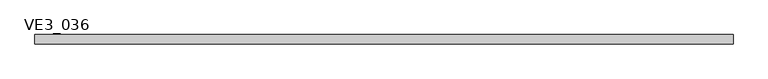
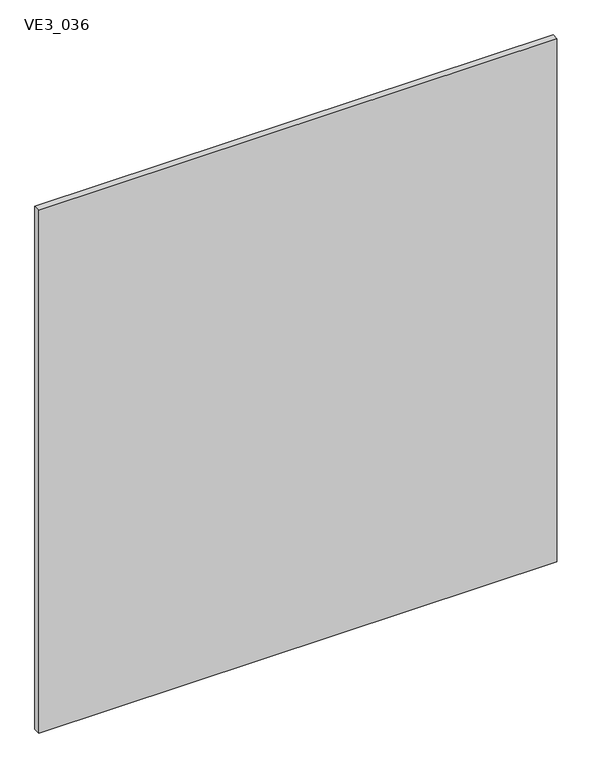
"""IFC4 building model written with IfcOpenShell, lengths in millimetres: plate geometry, TRP_CP_ARC_PF_RE_SE : VE3_036."""

import ifcopenshell
import ifcopenshell.guid

model = None  # the IFC model being written
_history = None  # IfcOwnerHistory: only IFC2X3 demands one
_inside = {}  # id of a spatial element -> (the spatial element, [elements in it])
_under = {}  # id of a project, library or spatial element -> (it, [spatial elements below it])
_declared = {}  # id of a project -> (the project, [libraries it declares])
_typed = {}  # id of a type object -> (the type object, [elements of that type])
_made_of = {}  # id of a material, layer set ... -> (it, [elements and type objects made of it])


def new_model(schema):
    """Start an empty IFC model of exactly this schema.

    Asked for "IFC4X3", IfcOpenShell would pick the latest addendum, in which some entities
    have other attributes; the version numbers below select the first issue.
    IFC2X3 requires an IfcOwnerHistory on every rooted entity: one is made here for all.
    """
    global model, _history
    if schema == "IFC4X3":
        model = ifcopenshell.file(schema_version=(4, 3, 0, 0))
    else:
        model = ifcopenshell.file(schema=schema)
    _inside.clear()
    _under.clear()
    _declared.clear()
    _typed.clear()
    _made_of.clear()
    _history = None
    if model.schema == "IFC2X3":
        org = make("IfcOrganization", Name="unknown")
        user = make(
            "IfcPersonAndOrganization",
            ThePerson=make("IfcPerson", FamilyName="unknown"),
            TheOrganization=org,
        )
        app = make(
            "IfcApplication",
            ApplicationDeveloper=org,
            Version="unknown",
            ApplicationFullName="unknown",
            ApplicationIdentifier="unknown",
        )
        _history = make(
            "IfcOwnerHistory",
            OwningUser=user,
            OwningApplication=app,
            ChangeAction="ADDED",
            CreationDate=0,
        )
    return model


def make(cls, **values):
    """One entity of the class cls with the attributes given. An attribute that is None is left unset."""
    return model.create_entity(
        cls, **{name: value for name, value in values.items() if value is not None}
    )


def rooted(cls, **values):
    """An entity with a GlobalId (a new one), such as an element, a storey or a relation."""
    return make(cls, GlobalId=ifcopenshell.guid.new(), OwnerHistory=_history, **values)


def si_unit(unit_type, name, prefix=None):
    """IfcSIUnit, for example si_unit("LENGTHUNIT", "METRE", prefix="MILLI")."""
    return make("IfcSIUnit", UnitType=unit_type, Prefix=prefix, Name=name)


def assignment(units):
    """IfcUnitAssignment: the units of a project."""
    return None if units is None else make("IfcUnitAssignment", Units=units)


def point(xyz):
    """IfcCartesianPoint."""
    return None if xyz is None else make("IfcCartesianPoint", Coordinates=xyz)


def direction(xyz):
    """IfcDirection."""
    return None if xyz is None else make("IfcDirection", DirectionRatios=xyz)


def frame(location, z_axis=None, x_axis=None):
    """IfcAxis2Placement3D, a coordinate frame: its origin and axes. An axis left out is left unset."""
    return make(
        "IfcAxis2Placement3D",
        Location=point(location),
        Axis=direction(z_axis),
        RefDirection=direction(x_axis),
    )


def origin():
    """The frame at (0, 0, 0) with its axes left unset."""
    return frame((0.0, 0.0, 0.0))


def place(relative_to, where):
    """IfcLocalPlacement: puts the frame where relative to a parent placement (None: the world)."""
    return make(
        "IfcLocalPlacement", PlacementRelTo=relative_to, RelativePlacement=where
    )


def context(
    kind, dimensions, precision=None, world=None, true_north=None, identifier=None
):
    """IfcGeometricRepresentationContext, for example the 3D "Model" context."""
    return make(
        "IfcGeometricRepresentationContext",
        ContextIdentifier=identifier,
        ContextType=kind,
        CoordinateSpaceDimension=dimensions,
        Precision=precision,
        WorldCoordinateSystem=world,
        TrueNorth=true_north,
    )


def project(units=None, contexts=None):
    """IfcProject with its units and contexts."""
    return rooted(
        "IfcProject",
        Name="project",
        RepresentationContexts=contexts,
        UnitsInContext=assignment(units),
    )


def spatial(cls, under=None, at=None, **own):
    """A site, building, storey or space (cls), placed at a placement, below another one or the project."""
    s = rooted(cls, ObjectPlacement=at, **own)
    if under is not None:
        _under.setdefault(under.id(), (under, []))[1].append(s)
    return s


def polyline(points):
    """IfcPolyline through the points."""
    return make("IfcPolyline", Points=[point(p) for p in points])


def outline(outer, holes=None, kind="AREA"):
    """IfcArbitraryClosedProfileDef: a profile drawn as a closed curve; with holes, ...WithVoids."""
    if holes is None:
        return make("IfcArbitraryClosedProfileDef", ProfileType=kind, OuterCurve=outer)
    return make(
        "IfcArbitraryProfileDefWithVoids",
        ProfileType=kind,
        OuterCurve=outer,
        InnerCurves=holes,
    )


def extrude(swept, where, along, depth):
    """IfcExtrudedAreaSolid: the profile swept, set in the frame where, extruded along a direction by depth."""
    return make(
        "IfcExtrudedAreaSolid",
        SweptArea=swept,
        Position=where,
        ExtrudedDirection=direction(along),
        Depth=depth,
    )


def shape(context_of_items, identifier, shape_type, items):
    """IfcShapeRepresentation: the items that make up one representation, for example the "Body"."""
    return make(
        "IfcShapeRepresentation",
        ContextOfItems=context_of_items,
        RepresentationIdentifier=identifier,
        RepresentationType=shape_type,
        Items=items,
    )


def source(mapping_origin, context_of_items, identifier, shape_type, items):
    """IfcRepresentationMap: a shape defined once, which mapped items show again and again."""
    return make(
        "IfcRepresentationMap",
        MappingOrigin=mapping_origin,
        MappedRepresentation=shape(context_of_items, identifier, shape_type, items),
    )


def transform(
    local_origin,
    x_axis=None,
    y_axis=None,
    z_axis=None,
    scale=None,
    scale2=None,
    scale3=None,
    uniform=True,
):
    """IfcCartesianTransformationOperator3D, or its non-uniform kind. x_axis, y_axis, z_axis: its Axis1, 2, 3."""
    if uniform:
        return make(
            "IfcCartesianTransformationOperator3D",
            Axis1=direction(x_axis),
            Axis2=direction(y_axis),
            LocalOrigin=point(local_origin),
            Scale=scale,
            Axis3=direction(z_axis),
        )
    return make(
        "IfcCartesianTransformationOperator3DnonUniform",
        Axis1=direction(x_axis),
        Axis2=direction(y_axis),
        LocalOrigin=point(local_origin),
        Scale=scale,
        Axis3=direction(z_axis),
        Scale2=scale2,
        Scale3=scale3,
    )


def mapped(mapping_source, mapping_target):
    """IfcMappedItem: shows the shape of a source again, moved by a transform."""
    return make(
        "IfcMappedItem", MappingSource=mapping_source, MappingTarget=mapping_target
    )


def made_of(thing, what):
    """Note that an element or type object is made of a material, layer set ...; save() writes the relation."""
    if what is not None:
        _made_of.setdefault(what.id(), (what, []))[1].append(thing)
    return thing


def element(
    cls,
    number,
    at=None,
    inside=None,
    cuts=None,
    type_object=None,
    material=None,
    context=None,
    identifier="Body",
    shape_type=None,
    held_by="IfcProductDefinitionShape",
    body=None,
    shapes=None,
    **own,
):
    """One element of the class cls, such as IfcWall. Its Tag is "e" and its number.

    at: its placement. inside: the storey or other place that contains it. cuts: it is an
    opening in that element (IfcRelVoidsElement). A single representation is given by context,
    identifier, shape_type and body (its items); several are given by shapes. held_by: the class
    of the entity that holds the representations. save() writes the other relations.
    """
    e = rooted(cls, Tag="e%d" % number, ObjectPlacement=at, **own)
    if body is not None:
        shapes = [shape(context, identifier, shape_type, body)]
    if shapes is not None:
        e.Representation = make(held_by, Representations=shapes)
    if inside is not None:
        _inside.setdefault(inside.id(), (inside, []))[1].append(e)
    if cuts is not None:
        rooted(
            "IfcRelVoidsElement", RelatingBuildingElement=cuts, RelatedOpeningElement=e
        )
    if type_object is not None:
        _typed.setdefault(type_object.id(), (type_object, []))[1].append(e)
    return made_of(e, material)


def aggregate(whole, parts):
    """IfcRelAggregates: a whole, such as a stair, and the parts it consists of."""
    return rooted("IfcRelAggregates", RelatingObject=whole, RelatedObjects=parts)


def save(model, path):
    """Write the relations noted so far, then the file.

    IfcRelAggregates (storeys below a building ...), IfcRelContainedInSpatialStructure (elements
    in a storey), IfcRelDefinesByType, IfcRelAssociatesMaterial and IfcRelDeclares: one each for
    every whole, place, type object, material and project.
    """
    for whole, parts in _under.values():
        aggregate(whole, parts)
    for where, things in _inside.values():
        rooted(
            "IfcRelContainedInSpatialStructure",
            RelatedElements=things,
            RelatingStructure=where,
        )
    for kind, things in _typed.values():
        rooted("IfcRelDefinesByType", RelatedObjects=things, RelatingType=kind)
    for what, things in _made_of.values():
        rooted("IfcRelAssociatesMaterial", RelatedObjects=things, RelatingMaterial=what)
    for by, libraries in _declared.values():
        rooted("IfcRelDeclares", RelatingContext=by, RelatedDefinitions=libraries)
    model.write(path)


def ve3_036_fc92c171(model_context):
    return source(origin(), model_context, "Body", "SweptSolid", [
        extrude(outline(polyline([(1375.0, 18.0), (1375.0, -18.0), (-1375.0, -18.0), (-1375.0, 18.0), (1375.0, 18.0)])), frame((0.0, 0.0, -3.1739529), z_axis=(0.0, 0.0, 1.0), x_axis=(1.0, 0.0, 0.0)), (0.0, 0.0, 1.0), 2933.1739529),
    ])


if __name__ == "__main__":
    model = new_model("IFC4")
    model_context = context("Model", 3, world=origin())
    ifc_project = project(units=[si_unit("LENGTHUNIT", "METRE", prefix="MILLI")], contexts=[model_context])
    site = spatial("IfcSite", under=ifc_project)
    building = spatial("IfcBuilding", under=site)
    placement = place(None, origin())
    ve3_036_shape = ve3_036_fc92c171(model_context)
    element("IfcPlate", 1, ObjectType="TRP_CP_ARC_PF_RE_SE : VE3_036", at=placement, inside=building, context=model_context, shape_type="MappedRepresentation", body=[
        mapped(ve3_036_shape, transform((0.0, 0.0, 0.0), x_axis=(1.0, 0.0, 0.0), y_axis=(0.0, 1.0, 0.0), z_axis=(0.0, 0.0, 1.0))),
    ])
    save(model, "model.ifc")
